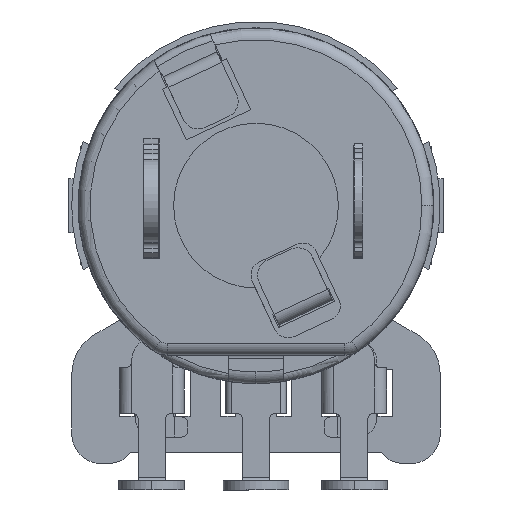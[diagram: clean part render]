
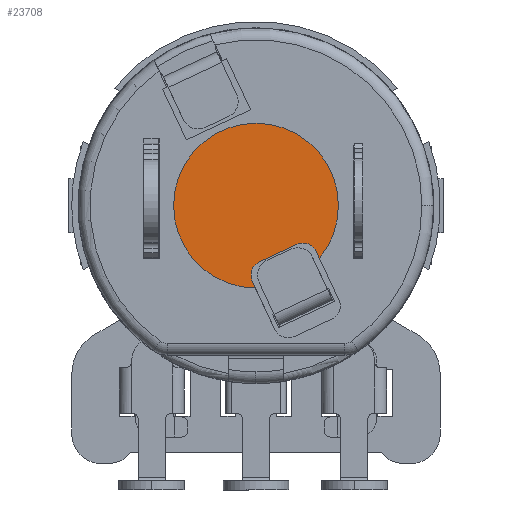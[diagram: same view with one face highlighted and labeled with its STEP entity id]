
A CAD part, front view. The second image highlights one B-rep face of the part: STEP entity #23708.
In plain terms, the highlighted planar face has unit normal (0, -1, 0) as drawn and (0, 0, 1) by its records, which use the part's own axes.
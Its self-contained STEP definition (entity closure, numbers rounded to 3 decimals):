
#356 = VERTEX_POINT ( 'NONE', #743 ) ;
#372 = ORIENTED_EDGE ( 'NONE', *, *, #21569, .T. ) ;
#421 = ORIENTED_EDGE ( 'NONE', *, *, #4528, .T. ) ;
#699 = CARTESIAN_POINT ( 'NONE',  ( 2.605, -1.98, -0.01 ) ) ;
#743 = CARTESIAN_POINT ( 'NONE',  ( -0.023, -3.556, -0.01 ) ) ;
#825 = ORIENTED_EDGE ( 'NONE', *, *, #13722, .T. ) ;
#828 = VERTEX_POINT ( 'NONE', #1623 ) ;
#1563 = DIRECTION ( 'NONE',  ( 0., 0., 1. ) ) ;
#1623 = CARTESIAN_POINT ( 'NONE',  ( 2.739, -2.268, -0.01 ) ) ;
#2648 = CARTESIAN_POINT ( 'NONE',  ( 0., 0., -0.01 ) ) ;
#3131 = CARTESIAN_POINT ( 'NONE',  ( 3.556, 0., -0.01 ) ) ;
#3249 = LINE ( 'NONE', #19671, #26260 ) ;
#3734 = DIRECTION ( 'NONE',  ( 1., 0., 0. ) ) ;
#3737 = ORIENTED_EDGE ( 'NONE', *, *, #16219, .T. ) ;
#4528 = EDGE_CURVE ( 'NONE', #5089, #21584, #9966, .T. ) ;
#5089 = VERTEX_POINT ( 'NONE', #30047 ) ;
#5384 = DIRECTION ( 'NONE',  ( 0.906, 0.423, 0. ) ) ;
#5405 = CARTESIAN_POINT ( 'NONE',  ( 0., 0., -0.01 ) ) ;
#5668 = VERTEX_POINT ( 'NONE', #3131 ) ;
#7042 = CIRCLE ( 'NONE', #24364, 3.556 ) ;
#7196 = EDGE_CURVE ( 'NONE', #24550, #356, #13593, .T. ) ;
#7676 = CARTESIAN_POINT ( 'NONE',  ( 0.418, -3., -0.01 ) ) ;
#7861 = CARTESIAN_POINT ( 'NONE',  ( 0.15, -2.425, -0.01 ) ) ;
#8172 = LINE ( 'NONE', #26500, #22953 ) ;
#8263 = DIRECTION ( 'NONE',  ( 1., 0., 0. ) ) ;
#8498 = EDGE_CURVE ( 'NONE', #5668, #24550, #7042, .T. ) ;
#8714 = DIRECTION ( 'NONE',  ( 0., 0., 1. ) ) ;
#9848 = CARTESIAN_POINT ( 'NONE',  ( -0.157, -3.268, -0.01 ) ) ;
#9966 = CIRCLE ( 'NONE', #11955, 0.635 ) ;
#10513 = DIRECTION ( 'NONE',  ( -0.423, 0.906, 0. ) ) ;
#11725 = CARTESIAN_POINT ( 'NONE',  ( -3.556, 0., -0.01 ) ) ;
#11793 = VERTEX_POINT ( 'NONE', #9848 ) ;
#11955 = AXIS2_PLACEMENT_3D ( 'NONE', #24884, #29862, #8263 ) ;
#12079 = ORIENTED_EDGE ( 'NONE', *, *, #22323, .T. ) ;
#12115 = DIRECTION ( 'NONE',  ( 0., 0., 1. ) ) ;
#12270 = VECTOR ( 'NONE', #5384, 1000. ) ;
#12425 = VERTEX_POINT ( 'NONE', #7861 ) ;
#13370 = CARTESIAN_POINT ( 'NONE',  ( 0., 0., -0.01 ) ) ;
#13548 = PLANE ( 'NONE',  #28435 ) ;
#13593 = CIRCLE ( 'NONE', #19015, 3.556 ) ;
#13722 = EDGE_CURVE ( 'NONE', #12425, #5089, #27099, .T. ) ;
#14531 = EDGE_LOOP ( 'NONE', ( #18183, #3737, #23257, #27386, #12079, #372, #825, #421 ) ) ;
#14723 = DIRECTION ( 'NONE',  ( 0., 0., 1. ) ) ;
#15379 = FACE_OUTER_BOUND ( 'NONE', #14531, .T. ) ;
#16013 = CARTESIAN_POINT ( 'NONE',  ( 0., 0., -0.01 ) ) ;
#16219 = EDGE_CURVE ( 'NONE', #828, #5668, #26873, .T. ) ;
#16488 = EDGE_CURVE ( 'NONE', #21584, #828, #3249, .T. ) ;
#17131 = DIRECTION ( 'NONE',  ( 0., 0., -1. ) ) ;
#17450 = AXIS2_PLACEMENT_3D ( 'NONE', #13370, #1563, #3734 ) ;
#18171 = DIRECTION ( 'NONE',  ( 1., 0., 0. ) ) ;
#18183 = ORIENTED_EDGE ( 'NONE', *, *, #16488, .T. ) ;
#19015 = AXIS2_PLACEMENT_3D ( 'NONE', #5405, #14723, #28698 ) ;
#19671 = CARTESIAN_POINT ( 'NONE',  ( 2.605, -1.98, -0.01 ) ) ;
#21557 = DIRECTION ( 'NONE',  ( 1., 0., 0. ) ) ;
#21569 = EDGE_CURVE ( 'NONE', #11793, #12425, #29563, .T. ) ;
#21584 = VERTEX_POINT ( 'NONE', #699 ) ;
#22323 = EDGE_CURVE ( 'NONE', #356, #11793, #8172, .T. ) ;
#22953 = VECTOR ( 'NONE', #10513, 1000. ) ;
#23257 = ORIENTED_EDGE ( 'NONE', *, *, #8498, .T. ) ;
#23708 = ADVANCED_FACE ( 'NONE', ( #15379 ), #13548, .T. ) ;
#24364 = AXIS2_PLACEMENT_3D ( 'NONE', #2648, #12115, #21557 ) ;
#24550 = VERTEX_POINT ( 'NONE', #11725 ) ;
#24773 = CARTESIAN_POINT ( 'NONE',  ( 1.761, -1.673, -0.01 ) ) ;
#24884 = CARTESIAN_POINT ( 'NONE',  ( 2.029, -2.249, -0.01 ) ) ;
#26260 = VECTOR ( 'NONE', #28548, 1000. ) ;
#26455 = DIRECTION ( 'NONE',  ( 1., 0., 0. ) ) ;
#26500 = CARTESIAN_POINT ( 'NONE',  ( -0.157, -3.268, -0.01 ) ) ;
#26873 = CIRCLE ( 'NONE', #17450, 3.556 ) ;
#27099 = LINE ( 'NONE', #24773, #12270 ) ;
#27386 = ORIENTED_EDGE ( 'NONE', *, *, #7196, .T. ) ;
#27585 = AXIS2_PLACEMENT_3D ( 'NONE', #7676, #17131, #26455 ) ;
#28435 = AXIS2_PLACEMENT_3D ( 'NONE', #16013, #8714, #18171 ) ;
#28548 = DIRECTION ( 'NONE',  ( 0.423, -0.906, 0. ) ) ;
#28698 = DIRECTION ( 'NONE',  ( 1., 0., 0. ) ) ;
#29563 = CIRCLE ( 'NONE', #27585, 0.635 ) ;
#29862 = DIRECTION ( 'NONE',  ( 0., 0., -1. ) ) ;
#30047 = CARTESIAN_POINT ( 'NONE',  ( 1.761, -1.673, -0.01 ) ) ;
